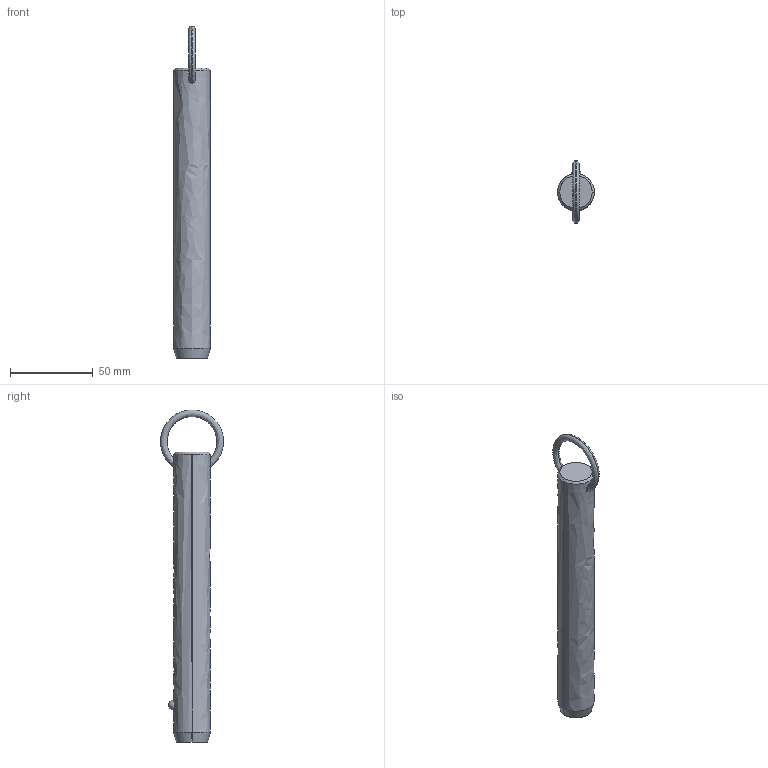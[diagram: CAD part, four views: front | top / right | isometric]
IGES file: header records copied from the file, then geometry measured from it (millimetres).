
Start section: SolidWorks IGES file using analytic representation for surfaces
Global section: file name: C:\Users\liam_\OneDrive\Documents\WORK\Work for WixRoyd\Job Files\J-00019 - Matt Davis CAD Checking\04. CAD Drawings\automotion20190605\P1250.2_v2\P1250.2_v2_20190729_IGES\P1250.087-540.igs; native system: SolidWorks 2017; preprocessor: SolidWorks 2017; author: liam_; date: 190730.001435; units: millimetre
Bounding box: 22.2 x 38.1 x 200.69 mm (x, y, z)
Surface area: 13869.8 mm2 (no closed solid volume)
Topology: 0 solids, 0 shells, 12 faces, 302 edges, 300 vertices
Faces by surface type: revolution 8, bspline 4
